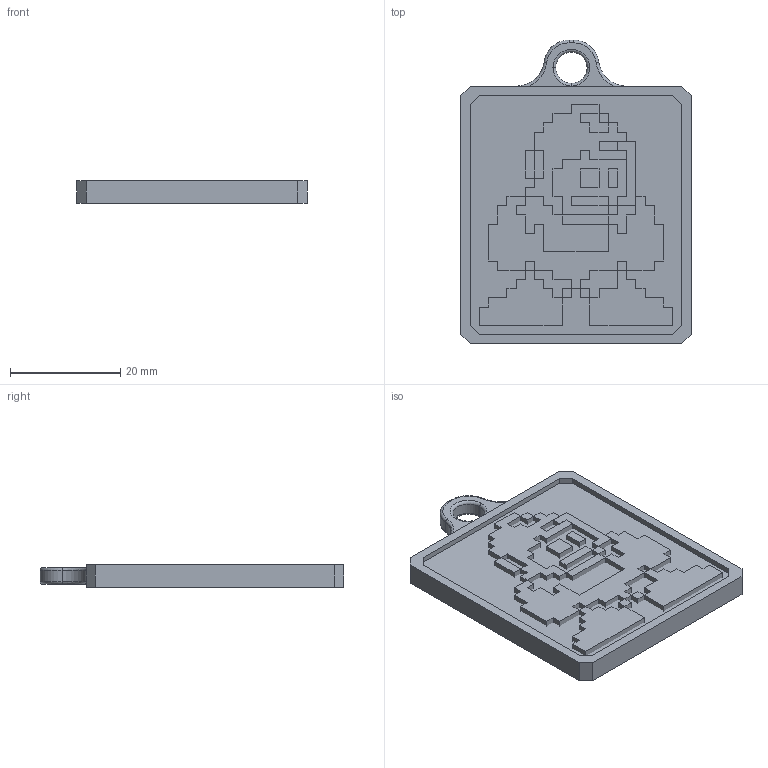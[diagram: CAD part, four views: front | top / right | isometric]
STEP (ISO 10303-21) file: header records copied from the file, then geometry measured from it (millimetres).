
FILE_DESCRIPTION (( 'STEP AP203' ), '1' );
FILE_NAME ('Megaman Keychain.STEP', '2025-02-14T06:25:48', ( '' ), ( '' ), 'SwSTEP 2.0', 'SolidWorks 2024', '' );
FILE_SCHEMA (( 'CONFIG_CONTROL_DESIGN' ));
Length unit declared in the file: millimetre
Products named in the file (1): Megaman Keychain
Bounding box: 41.66 x 55 x 4 mm (x, y, z)
Volume: 7216.1 mm3; surface area: 8896.8 mm2
Topology: 16 solids, 16 shells, 255 faces, 656 edges, 432 vertices
Faces by surface type: plane 231, torus 14, cylinder 8, bspline 2
Entity records: 7697 total; most frequent: CARTESIAN_POINT 1400, ORIENTED_EDGE 1312, DIRECTION 1202, EDGE_CURVE 656, LINE 606, VECTOR 606, VERTEX_POINT 432, AXIS2_PLACEMENT_3D 298
